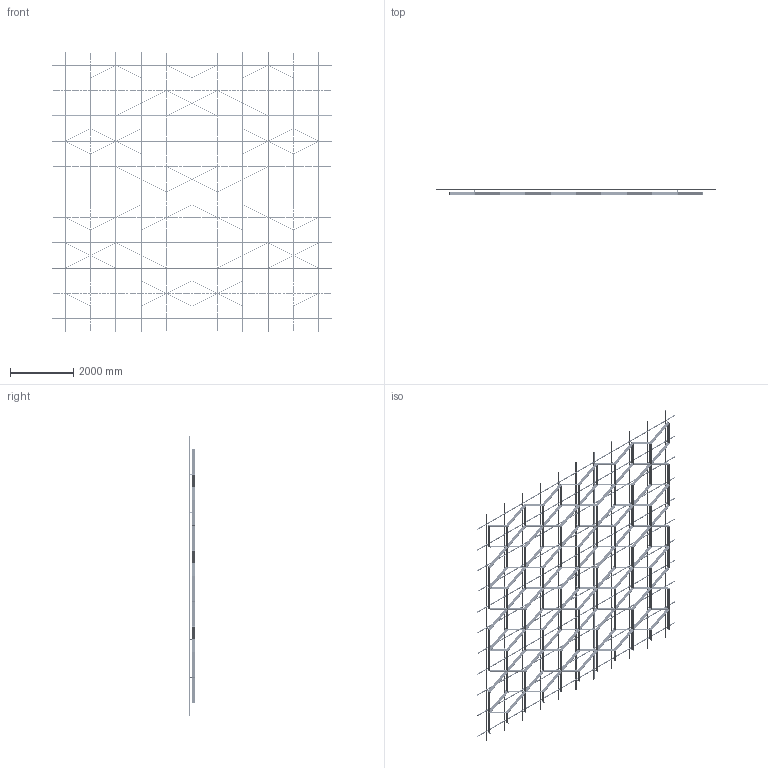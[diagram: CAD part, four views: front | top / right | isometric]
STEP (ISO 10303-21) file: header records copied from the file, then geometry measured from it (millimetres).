
FILE_DESCRIPTION (( 'STEP AP203' ), '1' );
FILE_NAME ('23 ìèäè ñ ïñ.step', '2025-11-26T11:51:12', ( '' ), ( '' ), 'SwSTEP 2.0', 'SolidWorks 2020', '' );
FILE_SCHEMA (( 'CONFIG_CONTROL_DESIGN' ));
Length unit declared in the file: millimetre
Products named in the file (5): Var23; SS.SEMA.2400 - Ñèìà-ïðîôèëü — îáðåçàí 1600; 23 ìèäè ñ ïñ; SS.SEMA.2400 - Ñèìà-ïðîôèëü; Ñèñòåìà â çîíå 8000õ8000
Assembly tree (90 placements, depth 3):
  23 ìèäè ñ ïñ
    Ñèñòåìà â çîíå 8000õ8000
      SS.SEMA.2400 - Ñèìà-ïðîôèëü  x66
      SS.SEMA.2400 - Ñèìà-ïðîôèëü — îáðåçàí 1600  x22
    Var23
Bounding box: 8800 x 205 x 8800 mm (x, y, z)
Volume: 158495580.9 mm3; surface area: 66194257.6 mm2
Topology: 779 solids, 779 shells, 19678 faces, 52952 edges, 34832 vertices
Faces by surface type: cylinder 12826, plane 6852
Entity records: 88573 total; most frequent: CARTESIAN_POINT 20996, ORIENTED_EDGE 12752, DIRECTION 12582, EDGE_CURVE 6376, AXIS2_PLACEMENT_3D 6042, VERTEX_POINT 4240, EDGE_LOOP 3684, ADVANCED_FACE 3522
